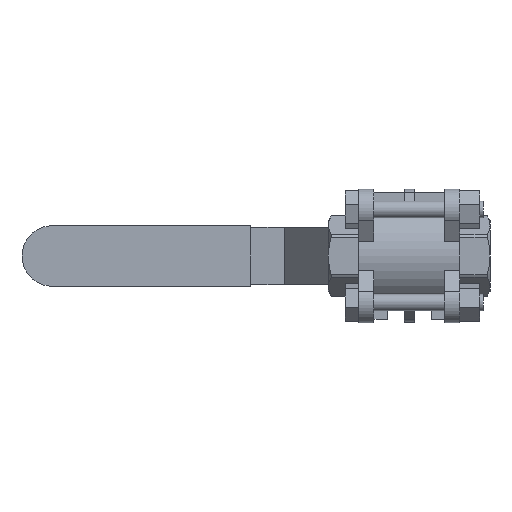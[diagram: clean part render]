
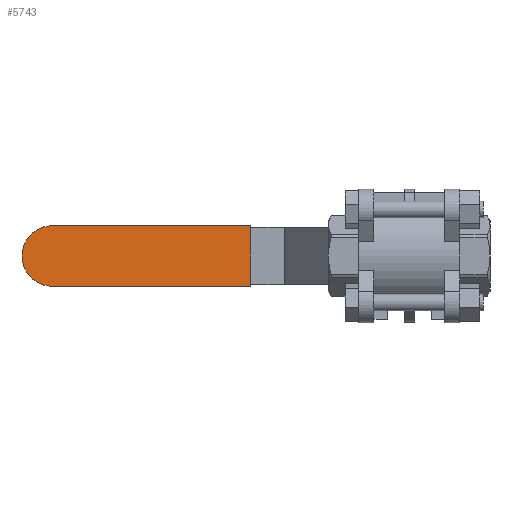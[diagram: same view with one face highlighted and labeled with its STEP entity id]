
A CAD part, front view. The second image highlights one B-rep face of the part: STEP entity #5743.
In plain terms, the highlighted planar face has unit normal (0, -1, 0).
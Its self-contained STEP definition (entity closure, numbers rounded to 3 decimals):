
#144 = EDGE_CURVE ( 'NONE', #5899, #2510, #2506, .T. ) ;
#378 = DIRECTION ( 'NONE',  ( 0., 0., -1. ) ) ;
#513 = ORIENTED_EDGE ( 'NONE', *, *, #6152, .F. ) ;
#576 = EDGE_LOOP ( 'NONE', ( #4464, #513, #7047, #7459 ) ) ;
#592 = AXIS2_PLACEMENT_3D ( 'NONE', #6431, #2545, #7071 ) ;
#784 = VECTOR ( 'NONE', #378, 1000. ) ;
#2092 = CARTESIAN_POINT ( 'NONE',  ( -115., 55.5, 77.618 ) ) ;
#2506 = LINE ( 'NONE', #4873, #784 ) ;
#2510 = VERTEX_POINT ( 'NONE', #8226 ) ;
#2545 = DIRECTION ( 'NONE',  ( 0., 1., 0. ) ) ;
#2735 = DIRECTION ( 'NONE',  ( 0., 0., 1. ) ) ;
#3156 = FACE_OUTER_BOUND ( 'NONE', #576, .T. ) ;
#3915 = DIRECTION ( 'NONE',  ( 1., 0., 0. ) ) ;
#3953 = AXIS2_PLACEMENT_3D ( 'NONE', #2092, #6619, #2735 ) ;
#4086 = EDGE_CURVE ( 'NONE', #5264, #2510, #7848, .T. ) ;
#4464 = ORIENTED_EDGE ( 'NONE', *, *, #7332, .T. ) ;
#4647 = CARTESIAN_POINT ( 'NONE',  ( -106., 55.5, 9. ) ) ;
#4873 = CARTESIAN_POINT ( 'NONE',  ( -47., 55.5, 77.618 ) ) ;
#5143 = CARTESIAN_POINT ( 'NONE',  ( -115., 55.5, 9. ) ) ;
#5264 = VERTEX_POINT ( 'NONE', #7407 ) ;
#5743 = ADVANCED_FACE ( 'NONE', ( #3156 ), #6594, .F. ) ;
#5899 = VERTEX_POINT ( 'NONE', #6804 ) ;
#6152 = EDGE_CURVE ( 'NONE', #5264, #7199, #6789, .T. ) ;
#6431 = CARTESIAN_POINT ( 'NONE',  ( -106., 55.5, 0. ) ) ;
#6476 = VECTOR ( 'NONE', #7734, 1000. ) ;
#6514 = CARTESIAN_POINT ( 'NONE',  ( -115., 55.5, -9. ) ) ;
#6594 = PLANE ( 'NONE',  #3953 ) ;
#6619 = DIRECTION ( 'NONE',  ( 0., 1., 0. ) ) ;
#6789 = CIRCLE ( 'NONE', #592, 9. ) ;
#6804 = CARTESIAN_POINT ( 'NONE',  ( -47., 55.5, 9. ) ) ;
#6868 = LINE ( 'NONE', #5143, #6476 ) ;
#7047 = ORIENTED_EDGE ( 'NONE', *, *, #4086, .T. ) ;
#7071 = DIRECTION ( 'NONE',  ( 0., 0., 1. ) ) ;
#7199 = VERTEX_POINT ( 'NONE', #4647 ) ;
#7332 = EDGE_CURVE ( 'NONE', #5899, #7199, #6868, .T. ) ;
#7407 = CARTESIAN_POINT ( 'NONE',  ( -106., 55.5, -9. ) ) ;
#7459 = ORIENTED_EDGE ( 'NONE', *, *, #144, .F. ) ;
#7648 = VECTOR ( 'NONE', #3915, 1000. ) ;
#7734 = DIRECTION ( 'NONE',  ( -1., 0., 0. ) ) ;
#7848 = LINE ( 'NONE', #6514, #7648 ) ;
#8226 = CARTESIAN_POINT ( 'NONE',  ( -47., 55.5, -9. ) ) ;
